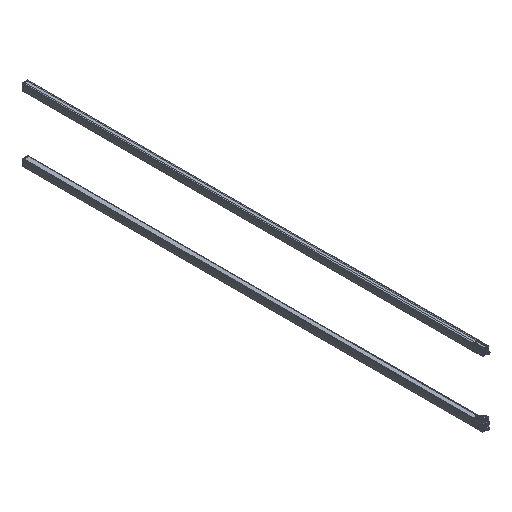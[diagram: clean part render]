
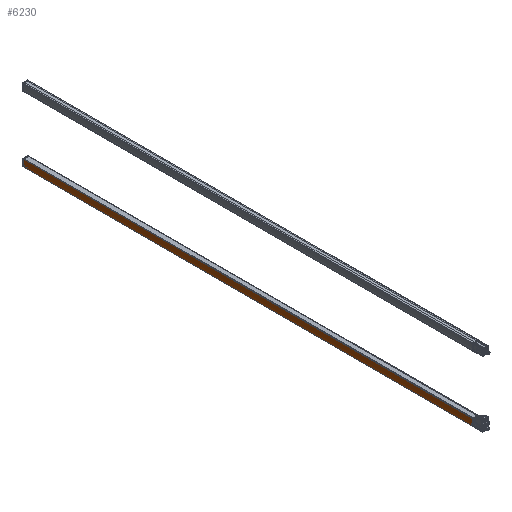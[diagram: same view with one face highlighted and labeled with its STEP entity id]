
A CAD part, isometric view. The second image highlights one B-rep face of the part: STEP entity #6230.
In plain terms, the highlighted cylindrical face has radius 250 mm (diameter 500 mm), a partial arc.
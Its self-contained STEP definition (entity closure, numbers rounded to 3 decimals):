
#5486=CYLINDRICAL_SURFACE('',#62400,250.);
#6230=ADVANCED_FACE('',(#11306),#5486,.T.);
#11306=FACE_OUTER_BOUND('',#14403,.T.);
#14403=EDGE_LOOP('',(#20436,#20437,#20438,#20439));
#18151=CIRCLE('',#62310,250.);
#18198=CIRCLE('',#62399,250.);
#20436=ORIENTED_EDGE('',*,*,#43580,.T.);
#20437=ORIENTED_EDGE('',*,*,#43704,.F.);
#20438=ORIENTED_EDGE('',*,*,#43705,.T.);
#20439=ORIENTED_EDGE('',*,*,#43702,.F.);
#37863=VERTEX_POINT('',#83368);
#37864=VERTEX_POINT('',#83370);
#37945=VERTEX_POINT('',#83614);
#37946=VERTEX_POINT('',#83618);
#43580=EDGE_CURVE('',#37864,#37863,#18151,.T.);
#43702=EDGE_CURVE('',#37864,#37945,#52469,.T.);
#43704=EDGE_CURVE('',#37946,#37863,#52470,.T.);
#43705=EDGE_CURVE('',#37946,#37945,#18198,.T.);
#52469=LINE('',#83613,#57387);
#52470=LINE('',#83617,#57388);
#57387=VECTOR('',#67877,1.);
#57388=VECTOR('',#67882,1.);
#62310=AXIS2_PLACEMENT_3D('',#83369,#67627,#67628);
#62399=AXIS2_PLACEMENT_3D('',#83619,#67883,#67884);
#62400=AXIS2_PLACEMENT_3D('',#83620,#67885,#67886);
#67627=DIRECTION('',(0.,0.,1.));
#67628=DIRECTION('',(-0.998,0.067,0.));
#67877=DIRECTION('',(0.,0.,1.));
#67882=DIRECTION('',(0.,0.,-1.));
#67883=DIRECTION('',(0.,0.,-1.));
#67884=DIRECTION('',(-0.998,0.067,0.));
#67885=DIRECTION('',(0.,0.,-1.));
#67886=DIRECTION('',(0.998,-0.067,0.));
#83368=CARTESIAN_POINT('',(13.731,16.86,-2242.));
#83369=CARTESIAN_POINT('',(-235.7,0.,-2242.));
#83370=CARTESIAN_POINT('',(13.793,-15.907,-2242.));
#83613=CARTESIAN_POINT('',(13.793,-15.907,-452.));
#83614=CARTESIAN_POINT('',(13.793,-15.907,0.));
#83617=CARTESIAN_POINT('',(13.731,16.86,0.));
#83618=CARTESIAN_POINT('',(13.731,16.86,0.));
#83619=CARTESIAN_POINT('',(-235.7,0.,0.));
#83620=CARTESIAN_POINT('',(-235.7,0.,0.));
